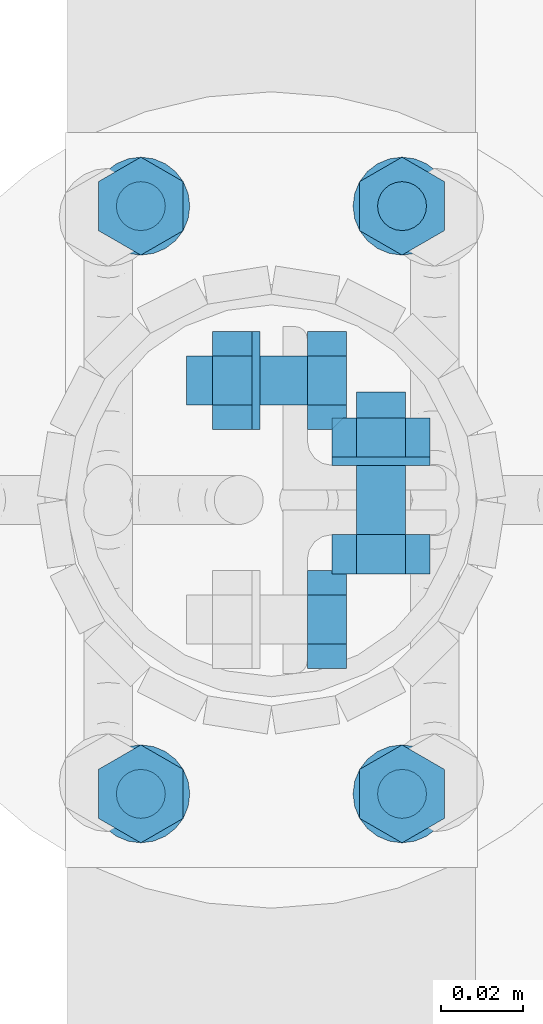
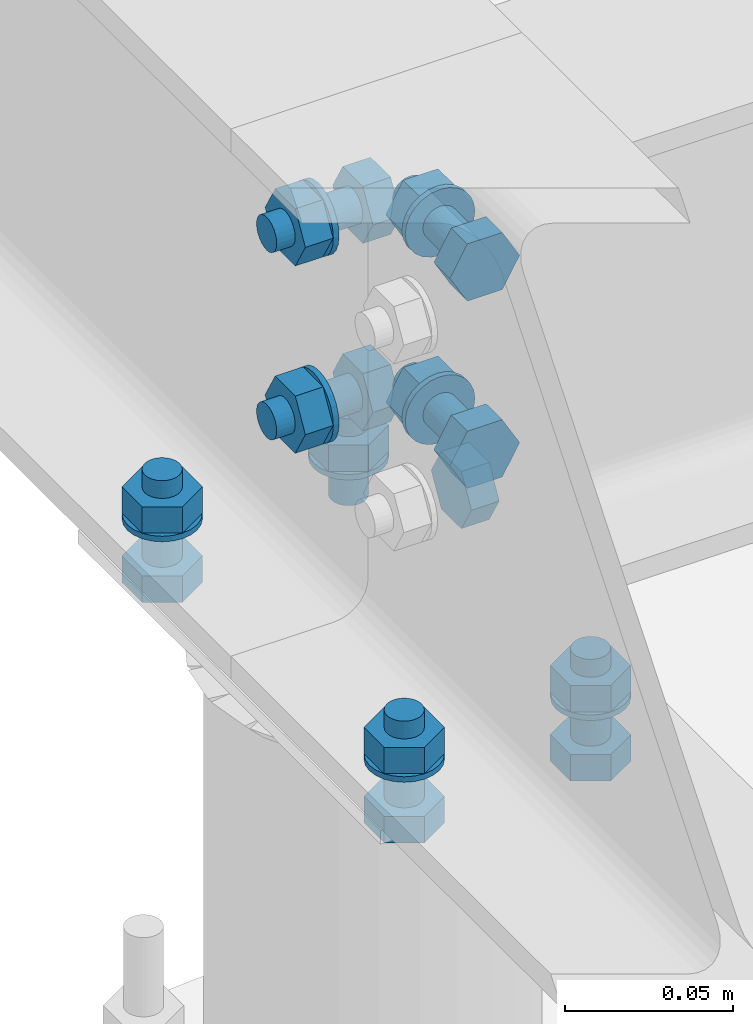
# One storey, part 18 of 84: 40 mechanical fasteners.
"""IFC4 building model written with IfcOpenShell, lengths in metres."""

from ifc_helpers import new_model, si_unit, frame, origin_with_axes, place, context, project, spatial, polyline, outline, extrude, type_object, element, save


model = new_model("IFC4")

# Units and contexts
model_context = context("Model", 3, precision=1e-05, world=origin_with_axes())
ifc_project = project(units=[si_unit("LENGTHUNIT", "METRE"), si_unit("AREAUNIT", "SQUARE_METRE"), si_unit("VOLUMEUNIT", "CUBIC_METRE"), si_unit("MASSUNIT", "GRAM", prefix="KILO"), si_unit("TIMEUNIT", "SECOND"), si_unit("PLANEANGLEUNIT", "RADIAN"), si_unit("SOLIDANGLEUNIT", "STERADIAN"), si_unit("THERMODYNAMICTEMPERATUREUNIT", "DEGREE_CELSIUS")], contexts=[model_context])

# Site, building, storey
placement_1 = place(None, origin_with_axes())
site = spatial("IfcSite", under=ifc_project, at=placement_1, Name="Italia", CompositionType="ELEMENT")
building = spatial("IfcBuilding", under=site, at=placement_1, Name="Tettoia", CompositionType="ELEMENT")
storey_placement = place(None, frame((0.0, 0.0, 4.199999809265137), z_axis=(0.0, 0.0, 1.0), x_axis=(1.0, 0.0, 0.0)))
storey = spatial("IfcBuildingStorey", under=building, at=storey_placement, Name="Storey 1", CompositionType="ELEMENT", Elevation=4.199999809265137)

# Mechanical fasteners
mechanical_fastener_type_1 = type_object("IfcMechanicalFastenerType", Name="Collegamento 0101_-001", PredefinedType="BOLT")
placement_2 = place(placement_1, origin_with_axes())
mechanical_fastener_1_placement = place(placement_2, origin_with_axes())
element("IfcMechanicalFastener", 1, at=mechanical_fastener_1_placement, inside=storey, type_object=mechanical_fastener_type_1, Name="Collegamento 0101_-001", NominalDiameter=0.012, context=model_context, shape_type="SweptSolid", body=[
    extrude(outline(polyline([(0.0, 0.0), (-0.000204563, -0.00155258), (-0.000803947, -0.00300026), (-0.00175738, -0.0042429), (-0.00300002, -0.00519657), (-0.00444722, -0.00579548), (-0.00600004, -0.00599957), (-0.00755286, -0.00579548), (-0.00900006, -0.00519657), (-0.0102427, -0.0042429), (-0.0111961, -0.00300026), (-0.0117955, -0.00155258), (-0.0120001, 0.0), (-0.0117955, 0.00155258), (-0.0111961, 0.00300026), (-0.0102427, 0.0042429), (-0.00900006, 0.00519657), (-0.00755286, 0.00579548), (-0.00600004, 0.00599957), (-0.00444722, 0.00579548), (-0.00300002, 0.00519657), (-0.00175738, 0.0042429), (-0.000803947, 0.00300026), (-0.000204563, 0.00155258), (0.0, 0.0)])), frame((8.322, 2.078, 4.2265), z_axis=(0.0, 0.0, -1.0), x_axis=(0.0, 1.0, 0.0)), (0.0, 0.0, 1.0), 0.0315003),
])
mechanical_fastener_type_2 = type_object("IfcMechanicalFastenerType", Name="Collegamento 0101_-001", PredefinedType="BOLT")
mechanical_fastener_2_placement = place(placement_2, origin_with_axes())
element("IfcMechanicalFastener", 2, at=mechanical_fastener_2_placement, inside=storey, type_object=mechanical_fastener_type_2, Name="Collegamento 0101_-001", NominalDiameter=0.0119998, context=model_context, shape_type="SweptSolid", body=[
    extrude(outline(polyline([(0.0, 0.0), (0.0119998, 0.0), (0.0179999, -0.0103931), (0.0119998, -0.0207853), (0.0, -0.0207853), (-0.00600004, -0.0103931), (0.0, 0.0)])), frame((8.33239, 2.066, 4.2201), z_axis=(0.0, 0.0, -1.0), x_axis=(0.0, 1.0, 0.0)), (0.0, 0.0, 1.0), 0.00960016),
])
mechanical_fastener_type_3 = type_object("IfcMechanicalFastenerType", Name="Collegamento 0101_-001", PredefinedType="BOLT")
mechanical_fastener_3_placement = place(placement_2, origin_with_axes())
element("IfcMechanicalFastener", 3, at=mechanical_fastener_3_placement, inside=storey, type_object=mechanical_fastener_type_3, Name="Collegamento 0101_-001", NominalDiameter=0.024, context=model_context, shape_type="SweptSolid", body=[
    extrude(outline(polyline([(0.0, 0.0), (-0.000408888, -0.00310612), (-0.00160789, -0.00599957), (-0.00351477, -0.00848484), (-0.00600004, -0.0103922), (-0.00889421, -0.011591), (-0.0120001, -0.0120001), (-0.015106, -0.011591), (-0.0180001, -0.0103922), (-0.0204854, -0.00848484), (-0.0223923, -0.00599957), (-0.0235913, -0.00310612), (-0.0240002, 0.0), (-0.0235913, 0.00310612), (-0.0223923, 0.00599957), (-0.0204854, 0.00848484), (-0.0180001, 0.0103922), (-0.015106, 0.011591), (-0.0120001, 0.0120001), (-0.00889421, 0.011591), (-0.00600004, 0.0103922), (-0.00351477, 0.00848484), (-0.00160789, 0.00599957), (-0.000408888, 0.00310612), (0.0, 0.0)])), frame((8.322, 2.084, 4.2105), z_axis=(0.0, 0.0, -1.0), x_axis=(0.0, 1.0, 0.0)), (0.0, 0.0, 1.0), 0.00199986),
])
mechanical_fastener_type_4 = type_object("IfcMechanicalFastenerType", Name="Collegamento 0101_-001", PredefinedType="BOLT")
mechanical_fastener_4_placement = place(placement_2, origin_with_axes())
element("IfcMechanicalFastener", 4, at=mechanical_fastener_4_placement, inside=storey, type_object=mechanical_fastener_type_4, Name="Collegamento 0101_-001", NominalDiameter=0.0119999, context=model_context, shape_type="SweptSolid", body=[
    extrude(outline(polyline([(0.0, 0.0), (0.012, 0.0), (0.018, -0.0103931), (0.012, -0.0207853), (0.0, -0.0207853), (-0.00600004, -0.0103931), (0.0, 0.0)])), frame((8.33239, 1.922, 4.195), z_axis=(0.0, 0.0, -1.0), x_axis=(0.0, 1.0, 0.0)), (0.0, 0.0, 1.0), 0.00959969),
])
mechanical_fastener_type_5 = type_object("IfcMechanicalFastenerType", Name="Collegamento 0101_-001", PredefinedType="BOLT")
mechanical_fastener_5_placement = place(placement_2, origin_with_axes())
element("IfcMechanicalFastener", 5, at=mechanical_fastener_5_placement, inside=storey, type_object=mechanical_fastener_type_5, Name="Collegamento 0101_-001", NominalDiameter=0.012, context=model_context, shape_type="SweptSolid", body=[
    extrude(outline(polyline([(0.0, 0.0), (-0.000204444, -0.00155258), (-0.000803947, -0.00300026), (-0.00175738, -0.0042429), (-0.00300002, -0.00519657), (-0.0044471, -0.00579548), (-0.00600004, -0.00599957), (-0.00755298, -0.00579548), (-0.00900006, -0.00519657), (-0.0102427, -0.0042429), (-0.0111961, -0.00300026), (-0.0117956, -0.00155258), (-0.0120001, 0.0), (-0.0117956, 0.00155258), (-0.0111961, 0.00300026), (-0.0102427, 0.0042429), (-0.00900006, 0.00519657), (-0.00755298, 0.00579548), (-0.00600004, 0.00599957), (-0.0044471, 0.00579548), (-0.00300002, 0.00519657), (-0.00175738, 0.0042429), (-0.000803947, 0.00300026), (-0.000204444, 0.00155258), (0.0, 0.0)])), frame((8.322, 1.934, 4.2265), z_axis=(0.0, 0.0, -1.0), x_axis=(0.0, 1.0, 0.0)), (0.0, 0.0, 1.0), 0.0315003),
])
mechanical_fastener_type_6 = type_object("IfcMechanicalFastenerType", Name="Collegamento 0101_-001", PredefinedType="BOLT")
mechanical_fastener_6_placement = place(placement_2, origin_with_axes())
element("IfcMechanicalFastener", 6, at=mechanical_fastener_6_placement, inside=storey, type_object=mechanical_fastener_type_6, Name="Collegamento 0101_-001", NominalDiameter=0.0119999, context=model_context, shape_type="SweptSolid", body=[
    extrude(outline(polyline([(0.0, 0.0), (0.012, 0.0), (0.018, -0.0103931), (0.012, -0.0207853), (0.0, -0.0207853), (-0.00600004, -0.0103931), (0.0, 0.0)])), frame((8.33239, 1.922, 4.2201), z_axis=(0.0, 0.0, -1.0), x_axis=(0.0, 1.0, 0.0)), (0.0, 0.0, 1.0), 0.00960016),
])
mechanical_fastener_type_7 = type_object("IfcMechanicalFastenerType", Name="Collegamento 0101_-001", PredefinedType="BOLT")
mechanical_fastener_7_placement = place(placement_2, origin_with_axes())
element("IfcMechanicalFastener", 7, at=mechanical_fastener_7_placement, inside=storey, type_object=mechanical_fastener_type_7, Name="Collegamento 0101_-001", NominalDiameter=0.024, context=model_context, shape_type="SweptSolid", body=[
    extrude(outline(polyline([(0.0, 0.0), (-0.000408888, -0.00310612), (-0.00160766, -0.00599957), (-0.00351465, -0.00848484), (-0.00599992, -0.0103922), (-0.00889409, -0.011591), (-0.012, -0.0120001), (-0.0151058, -0.011591), (-0.018, -0.0103922), (-0.0204853, -0.00848484), (-0.0223923, -0.00599957), (-0.023591, -0.00310612), (-0.0239999, 0.0), (-0.023591, 0.00310612), (-0.0223923, 0.00599957), (-0.0204853, 0.00848484), (-0.018, 0.0103922), (-0.0151058, 0.011591), (-0.012, 0.0120001), (-0.00889409, 0.011591), (-0.00599992, 0.0103922), (-0.00351465, 0.00848484), (-0.00160766, 0.00599957), (-0.000408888, 0.00310612), (0.0, 0.0)])), frame((8.322, 1.94, 4.2105), z_axis=(0.0, 0.0, -1.0), x_axis=(0.0, 1.0, 0.0)), (0.0, 0.0, 1.0), 0.00199986),
])
mechanical_fastener_type_8 = type_object("IfcMechanicalFastenerType", Name="Collegamento 0101_-001", PredefinedType="BOLT")
mechanical_fastener_8_placement = place(placement_2, origin_with_axes())
element("IfcMechanicalFastener", 8, at=mechanical_fastener_8_placement, inside=storey, type_object=mechanical_fastener_type_8, Name="Collegamento 0101_-001", NominalDiameter=0.0119998, context=model_context, shape_type="SweptSolid", body=[
    extrude(outline(polyline([(0.0, 0.0), (0.0119998, 0.0), (0.0179999, -0.0103922), (0.0119998, -0.0207853), (0.0, -0.0207853), (-0.00600004, -0.0103922), (0.0, 0.0)])), frame((8.26839, 2.066, 4.195), z_axis=(0.0, 0.0, -1.0), x_axis=(0.0, 1.0, 0.0)), (0.0, 0.0, 1.0), 0.00959969),
])
mechanical_fastener_type_9 = type_object("IfcMechanicalFastenerType", Name="Collegamento 0101_-001", PredefinedType="BOLT")
mechanical_fastener_9_placement = place(placement_2, origin_with_axes())
element("IfcMechanicalFastener", 9, at=mechanical_fastener_9_placement, inside=storey, type_object=mechanical_fastener_type_9, Name="Collegamento 0101_-001", NominalDiameter=0.012, context=model_context, shape_type="SweptSolid", body=[
    extrude(outline(polyline([(0.0, 0.0), (-0.000204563, -0.00155258), (-0.000803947, -0.00300026), (-0.00175738, -0.0042429), (-0.00300002, -0.00519657), (-0.00444722, -0.00579548), (-0.00600004, -0.00599957), (-0.00755286, -0.00579548), (-0.00900006, -0.00519657), (-0.0102427, -0.0042429), (-0.0111961, -0.00300026), (-0.0117955, -0.00155258), (-0.0120001, 0.0), (-0.0117955, 0.00155258), (-0.0111961, 0.00300026), (-0.0102427, 0.0042429), (-0.00900006, 0.00519657), (-0.00755286, 0.00579548), (-0.00600004, 0.00599957), (-0.00444722, 0.00579548), (-0.00300002, 0.00519657), (-0.00175738, 0.0042429), (-0.000803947, 0.00300026), (-0.000204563, 0.00155258), (0.0, 0.0)])), frame((8.258, 2.078, 4.2265), z_axis=(0.0, 0.0, -1.0), x_axis=(0.0, 1.0, 0.0)), (0.0, 0.0, 1.0), 0.0315003),
])
mechanical_fastener_type_10 = type_object("IfcMechanicalFastenerType", Name="Collegamento 0101_-001", PredefinedType="BOLT")
mechanical_fastener_10_placement = place(placement_2, origin_with_axes())
element("IfcMechanicalFastener", 10, at=mechanical_fastener_10_placement, inside=storey, type_object=mechanical_fastener_type_10, Name="Collegamento 0101_-001", NominalDiameter=0.0119998, context=model_context, shape_type="SweptSolid", body=[
    extrude(outline(polyline([(0.0, 0.0), (0.0119998, 0.0), (0.0179999, -0.0103922), (0.0119998, -0.0207853), (0.0, -0.0207853), (-0.00600004, -0.0103922), (0.0, 0.0)])), frame((8.26839, 2.066, 4.2201), z_axis=(0.0, 0.0, -1.0), x_axis=(0.0, 1.0, 0.0)), (0.0, 0.0, 1.0), 0.00960016),
])
mechanical_fastener_type_11 = type_object("IfcMechanicalFastenerType", Name="Collegamento 0101_-001", PredefinedType="BOLT")
mechanical_fastener_11_placement = place(placement_2, origin_with_axes())
element("IfcMechanicalFastener", 11, at=mechanical_fastener_11_placement, inside=storey, type_object=mechanical_fastener_type_11, Name="Collegamento 0101_-001", NominalDiameter=0.024, context=model_context, shape_type="SweptSolid", body=[
    extrude(outline(polyline([(0.0, 0.0), (-0.000408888, -0.00310612), (-0.00160789, -0.00599957), (-0.00351477, -0.00848484), (-0.00600004, -0.0103922), (-0.00889421, -0.011591), (-0.0120001, -0.0120001), (-0.015106, -0.011591), (-0.0180001, -0.0103922), (-0.0204854, -0.00848484), (-0.0223923, -0.00599957), (-0.0235913, -0.00310612), (-0.0240002, 0.0), (-0.0235913, 0.00310612), (-0.0223923, 0.00599957), (-0.0204854, 0.00848484), (-0.0180001, 0.0103922), (-0.015106, 0.011591), (-0.0120001, 0.0120001), (-0.00889421, 0.011591), (-0.00600004, 0.0103922), (-0.00351477, 0.00848484), (-0.00160789, 0.00599957), (-0.000408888, 0.00310612), (0.0, 0.0)])), frame((8.258, 2.084, 4.2105), z_axis=(0.0, 0.0, -1.0), x_axis=(0.0, 1.0, 0.0)), (0.0, 0.0, 1.0), 0.00199986),
])
mechanical_fastener_type_12 = type_object("IfcMechanicalFastenerType", Name="Collegamento 0101_-001", PredefinedType="BOLT")
mechanical_fastener_12_placement = place(placement_2, origin_with_axes())
element("IfcMechanicalFastener", 12, at=mechanical_fastener_12_placement, inside=storey, type_object=mechanical_fastener_type_12, Name="Collegamento 0101_-001", NominalDiameter=0.0119999, context=model_context, shape_type="SweptSolid", body=[
    extrude(outline(polyline([(0.0, 0.0), (0.012, 0.0), (0.018, -0.0103922), (0.012, -0.0207853), (0.0, -0.0207853), (-0.00600004, -0.0103922), (0.0, 0.0)])), frame((8.26839, 1.922, 4.195), z_axis=(0.0, 0.0, -1.0), x_axis=(0.0, 1.0, 0.0)), (0.0, 0.0, 1.0), 0.00959969),
])
mechanical_fastener_type_13 = type_object("IfcMechanicalFastenerType", Name="Collegamento 0101_-001", PredefinedType="BOLT")
mechanical_fastener_13_placement = place(placement_2, origin_with_axes())
element("IfcMechanicalFastener", 13, at=mechanical_fastener_13_placement, inside=storey, type_object=mechanical_fastener_type_13, Name="Collegamento 0101_-001", NominalDiameter=0.012, context=model_context, shape_type="SweptSolid", body=[
    extrude(outline(polyline([(0.0, 0.0), (-0.000204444, -0.00155258), (-0.000803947, -0.00300026), (-0.00175738, -0.0042429), (-0.00300002, -0.00519657), (-0.0044471, -0.00579548), (-0.00600004, -0.00599957), (-0.00755298, -0.00579548), (-0.00900006, -0.00519657), (-0.0102427, -0.0042429), (-0.0111961, -0.00300026), (-0.0117956, -0.00155258), (-0.0120001, 0.0), (-0.0117956, 0.00155258), (-0.0111961, 0.00300026), (-0.0102427, 0.0042429), (-0.00900006, 0.00519657), (-0.00755298, 0.00579548), (-0.00600004, 0.00599957), (-0.0044471, 0.00579548), (-0.00300002, 0.00519657), (-0.00175738, 0.0042429), (-0.000803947, 0.00300026), (-0.000204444, 0.00155258), (0.0, 0.0)])), frame((8.258, 1.934, 4.2265), z_axis=(0.0, 0.0, -1.0), x_axis=(0.0, 1.0, 0.0)), (0.0, 0.0, 1.0), 0.0315003),
])
mechanical_fastener_type_14 = type_object("IfcMechanicalFastenerType", Name="Collegamento 0101_-001", PredefinedType="BOLT")
mechanical_fastener_14_placement = place(placement_2, origin_with_axes())
element("IfcMechanicalFastener", 14, at=mechanical_fastener_14_placement, inside=storey, type_object=mechanical_fastener_type_14, Name="Collegamento 0101_-001", NominalDiameter=0.0119999, context=model_context, shape_type="SweptSolid", body=[
    extrude(outline(polyline([(0.0, 0.0), (0.012, 0.0), (0.018, -0.0103922), (0.012, -0.0207853), (0.0, -0.0207853), (-0.00600004, -0.0103922), (0.0, 0.0)])), frame((8.26839, 1.922, 4.2201), z_axis=(0.0, 0.0, -1.0), x_axis=(0.0, 1.0, 0.0)), (0.0, 0.0, 1.0), 0.00960016),
])
mechanical_fastener_type_15 = type_object("IfcMechanicalFastenerType", Name="Collegamento 0101_-001", PredefinedType="BOLT")
mechanical_fastener_15_placement = place(placement_2, origin_with_axes())
element("IfcMechanicalFastener", 15, at=mechanical_fastener_15_placement, inside=storey, type_object=mechanical_fastener_type_15, Name="Collegamento 0101_-001", NominalDiameter=0.024, context=model_context, shape_type="SweptSolid", body=[
    extrude(outline(polyline([(0.0, 0.0), (-0.000408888, -0.00310612), (-0.00160766, -0.00599957), (-0.00351465, -0.00848484), (-0.00599992, -0.0103922), (-0.00889409, -0.011591), (-0.012, -0.0120001), (-0.0151058, -0.011591), (-0.018, -0.0103922), (-0.0204853, -0.00848484), (-0.0223923, -0.00599957), (-0.023591, -0.00310612), (-0.0239999, 0.0), (-0.023591, 0.00310612), (-0.0223923, 0.00599957), (-0.0204853, 0.00848484), (-0.018, 0.0103922), (-0.0151058, 0.011591), (-0.012, 0.0120001), (-0.00889409, 0.011591), (-0.00599992, 0.0103922), (-0.00351465, 0.00848484), (-0.00160766, 0.00599957), (-0.000408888, 0.00310612), (0.0, 0.0)])), frame((8.258, 1.94, 4.2105), z_axis=(0.0, 0.0, -1.0), x_axis=(0.0, 1.0, 0.0)), (0.0, 0.0, 1.0), 0.00199986),
])
mechanical_fastener_type_16 = type_object("IfcMechanicalFastenerType", Name="Collegamento 0101_0102", PredefinedType="BOLT")
mechanical_fastener_16_placement = place(placement_2, origin_with_axes())
element("IfcMechanicalFastener", 16, at=mechanical_fastener_16_placement, inside=storey, type_object=mechanical_fastener_type_16, Name="Collegamento 0101_0102", NominalDiameter=0.0119997, context=model_context, shape_type="SweptSolid", body=[
    extrude(outline(polyline([(0.0, 0.0), (-0.0120001, 0.0), (-0.0179996, 0.0103922), (-0.0120001, 0.0207844), (0.0, 0.0207844), (0.00600052, 0.0103922), (0.0, 0.0)])), frame((8.3228, 1.9915, 4.25561), z_axis=(0.0, -1.0, 0.0), x_axis=(1.0, 0.0, 0.0)), (0.0, 0.0, 1.0), 0.00960004),
])
mechanical_fastener_type_17 = type_object("IfcMechanicalFastenerType", Name="Collegamento 0101_0102", PredefinedType="BOLT")
mechanical_fastener_17_placement = place(placement_2, origin_with_axes())
element("IfcMechanicalFastener", 17, at=mechanical_fastener_17_placement, inside=storey, type_object=mechanical_fastener_type_17, Name="Collegamento 0101_0102", NominalDiameter=0.012, context=model_context, shape_type="SweptSolid", body=[
    extrude(outline(polyline([(0.0, 0.0), (-0.000204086, -0.00155306), (-0.000802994, -0.00299978), (-0.00175667, -0.00424242), (-0.00299931, -0.00519609), (-0.00444698, -0.00579548), (-0.00599957, -0.00600004), (-0.00755215, -0.00579548), (-0.00899982, -0.00519609), (-0.0102425, -0.00424242), (-0.0111961, -0.00299978), (-0.011795, -0.00155306), (-0.0119991, 0.0), (-0.011795, 0.00155306), (-0.0111961, 0.00299978), (-0.0102425, 0.00424242), (-0.00899982, 0.00519609), (-0.00755215, 0.00579548), (-0.00599957, 0.00600004), (-0.00444698, 0.00579548), (-0.00299931, 0.00519609), (-0.00175667, 0.00424242), (-0.000802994, 0.00299978), (-0.000204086, 0.00155306), (0.0, 0.0)])), frame((8.3228, 2.0265, 4.266), z_axis=(0.0, -1.0, 0.0), x_axis=(1.0, 0.0, 0.0)), (0.0, 0.0, 1.0), 0.035),
])
mechanical_fastener_type_18 = type_object("IfcMechanicalFastenerType", Name="Collegamento 0101_0102", PredefinedType="BOLT")
mechanical_fastener_18_placement = place(placement_2, origin_with_axes())
element("IfcMechanicalFastener", 18, at=mechanical_fastener_18_placement, inside=storey, type_object=mechanical_fastener_type_18, Name="Collegamento 0101_0102", NominalDiameter=0.0119997, context=model_context, shape_type="SweptSolid", body=[
    extrude(outline(polyline([(0.0, 0.0), (-0.0120001, 0.0), (-0.0179996, 0.0103922), (-0.0120001, 0.0207844), (0.0, 0.0207844), (0.00600052, 0.0103922), (0.0, 0.0)])), frame((8.3228, 2.0201, 4.25561), z_axis=(0.0, -1.0, 0.0), x_axis=(1.0, 0.0, 0.0)), (0.0, 0.0, 1.0), 0.00960016),
])
mechanical_fastener_type_19 = type_object("IfcMechanicalFastenerType", Name="Collegamento 0101_0102", PredefinedType="BOLT")
mechanical_fastener_19_placement = place(placement_2, origin_with_axes())
element("IfcMechanicalFastener", 19, at=mechanical_fastener_19_placement, inside=storey, type_object=mechanical_fastener_type_19, Name="Collegamento 0101_0102", NominalDiameter=0.024, context=model_context, shape_type="SweptSolid", body=[
    extrude(outline(polyline([(0.0, 0.0), (-0.000409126, -0.00310564), (-0.00160789, -0.00600004), (-0.00351524, -0.00848532), (-0.00600052, -0.0103922), (-0.00889397, -0.011591), (-0.0120001, -0.0120001), (-0.0151062, -0.011591), (-0.0179996, -0.0103922), (-0.0204849, -0.00848532), (-0.0223923, -0.00600004), (-0.023591, -0.00310564), (-0.0240002, 0.0), (-0.023591, 0.00310564), (-0.0223923, 0.00600004), (-0.0204849, 0.00848532), (-0.0179996, 0.0103922), (-0.0151062, 0.011591), (-0.0120001, 0.0120001), (-0.00889397, 0.011591), (-0.00600052, 0.0103922), (-0.00351524, 0.00848532), (-0.00160789, 0.00600004), (-0.000409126, 0.00310564), (0.0, 0.0)])), frame((8.3288, 2.0105, 4.266), z_axis=(0.0, -1.0, 0.0), x_axis=(1.0, 0.0, 0.0)), (0.0, 0.0, 1.0), 0.00199986),
])
mechanical_fastener_type_20 = type_object("IfcMechanicalFastenerType", Name="Collegamento 0101_0102", PredefinedType="BOLT")
mechanical_fastener_20_placement = place(placement_2, origin_with_axes())
element("IfcMechanicalFastener", 20, at=mechanical_fastener_20_placement, inside=storey, type_object=mechanical_fastener_type_20, Name="Collegamento 0101_0102", NominalDiameter=0.0119997, context=model_context, shape_type="SweptSolid", body=[
    extrude(outline(polyline([(0.0, 0.0), (-0.0120001, 0.0), (-0.0179996, 0.0103922), (-0.0120001, 0.0207844), (0.0, 0.0207844), (0.00600052, 0.0103922), (0.0, 0.0)])), frame((8.3228, 1.9915, 4.32361), z_axis=(0.0, -1.0, 0.0), x_axis=(1.0, 0.0, 0.0)), (0.0, 0.0, 1.0), 0.00960004),
])
mechanical_fastener_type_21 = type_object("IfcMechanicalFastenerType", Name="Collegamento 0101_0102", PredefinedType="BOLT")
mechanical_fastener_21_placement = place(placement_2, origin_with_axes())
element("IfcMechanicalFastener", 21, at=mechanical_fastener_21_placement, inside=storey, type_object=mechanical_fastener_type_21, Name="Collegamento 0101_0102", NominalDiameter=0.012, context=model_context, shape_type="SweptSolid", body=[
    extrude(outline(polyline([(0.0, 0.0), (-0.000204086, -0.00155306), (-0.000802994, -0.00299978), (-0.00175667, -0.00424242), (-0.00299931, -0.00519609), (-0.00444698, -0.00579548), (-0.00599957, -0.00600004), (-0.00755215, -0.00579548), (-0.00899982, -0.00519609), (-0.0102425, -0.00424242), (-0.0111961, -0.00299978), (-0.011795, -0.00155306), (-0.0119991, 0.0), (-0.011795, 0.00155306), (-0.0111961, 0.00299978), (-0.0102425, 0.00424242), (-0.00899982, 0.00519609), (-0.00755215, 0.00579548), (-0.00599957, 0.00600004), (-0.00444698, 0.00579548), (-0.00299931, 0.00519609), (-0.00175667, 0.00424242), (-0.000802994, 0.00299978), (-0.000204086, 0.00155306), (0.0, 0.0)])), frame((8.3228, 2.0265, 4.334), z_axis=(0.0, -1.0, 0.0), x_axis=(1.0, 0.0, 0.0)), (0.0, 0.0, 1.0), 0.035),
])
mechanical_fastener_type_22 = type_object("IfcMechanicalFastenerType", Name="Collegamento 0101_0102", PredefinedType="BOLT")
mechanical_fastener_22_placement = place(placement_2, origin_with_axes())
element("IfcMechanicalFastener", 22, at=mechanical_fastener_22_placement, inside=storey, type_object=mechanical_fastener_type_22, Name="Collegamento 0101_0102", NominalDiameter=0.0119997, context=model_context, shape_type="SweptSolid", body=[
    extrude(outline(polyline([(0.0, 0.0), (-0.0120001, 0.0), (-0.0179996, 0.0103922), (-0.0120001, 0.0207844), (0.0, 0.0207844), (0.00600052, 0.0103922), (0.0, 0.0)])), frame((8.3228, 2.0201, 4.32361), z_axis=(0.0, -1.0, 0.0), x_axis=(1.0, 0.0, 0.0)), (0.0, 0.0, 1.0), 0.00960016),
])
mechanical_fastener_type_23 = type_object("IfcMechanicalFastenerType", Name="Collegamento 0101_0102", PredefinedType="BOLT")
mechanical_fastener_23_placement = place(placement_2, origin_with_axes())
element("IfcMechanicalFastener", 23, at=mechanical_fastener_23_placement, inside=storey, type_object=mechanical_fastener_type_23, Name="Collegamento 0101_0102", NominalDiameter=0.024, context=model_context, shape_type="SweptSolid", body=[
    extrude(outline(polyline([(0.0, 0.0), (-0.000409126, -0.00310564), (-0.00160789, -0.00600004), (-0.00351524, -0.00848532), (-0.00600052, -0.0103922), (-0.00889397, -0.011591), (-0.0120001, -0.0120001), (-0.0151062, -0.011591), (-0.0179996, -0.0103922), (-0.0204849, -0.00848532), (-0.0223923, -0.00600004), (-0.023591, -0.00310564), (-0.0240002, 0.0), (-0.023591, 0.00310564), (-0.0223923, 0.00600004), (-0.0204849, 0.00848532), (-0.0179996, 0.0103922), (-0.0151062, 0.011591), (-0.0120001, 0.0120001), (-0.00889397, 0.011591), (-0.00600052, 0.0103922), (-0.00351524, 0.00848532), (-0.00160789, 0.00600004), (-0.000409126, 0.00310564), (0.0, 0.0)])), frame((8.3288, 2.0105, 4.334), z_axis=(0.0, -1.0, 0.0), x_axis=(1.0, 0.0, 0.0)), (0.0, 0.0, 1.0), 0.00199986),
])
mechanical_fastener_type_24 = type_object("IfcMechanicalFastenerType", Name="Collegamento 0101_0102", PredefinedType="BOLT")
mechanical_fastener_24_placement = place(placement_2, origin_with_axes())
element("IfcMechanicalFastener", 24, at=mechanical_fastener_24_placement, inside=storey, type_object=mechanical_fastener_type_24, Name="Collegamento 0101_0102", NominalDiameter=0.0119997, context=model_context, shape_type="SweptSolid", body=[
    extrude(outline(polyline([(0.0, 0.0), (-0.0120001, 0.0), (-0.0179996, 0.0103922), (-0.0120001, 0.0207844), (0.0, 0.0207844), (0.00600052, 0.0103922), (0.0, 0.0)])), frame((8.3228, 1.9915, 4.25561), z_axis=(0.0, -1.0, 0.0), x_axis=(1.0, 0.0, 0.0)), (0.0, 0.0, 1.0), 0.00960004),
])
mechanical_fastener_type_25 = type_object("IfcMechanicalFastenerType", Name="Collegamento 0101_0102", PredefinedType="BOLT")
mechanical_fastener_25_placement = place(placement_2, origin_with_axes())
element("IfcMechanicalFastener", 25, at=mechanical_fastener_25_placement, inside=storey, type_object=mechanical_fastener_type_25, Name="Collegamento 0101_0102", NominalDiameter=0.012, context=model_context, shape_type="SweptSolid", body=[
    extrude(outline(polyline([(0.0, 0.0), (-0.000204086, -0.00155306), (-0.000802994, -0.00299978), (-0.00175667, -0.00424242), (-0.00299931, -0.00519609), (-0.00444698, -0.00579548), (-0.00599957, -0.00600004), (-0.00755215, -0.00579548), (-0.00899982, -0.00519609), (-0.0102425, -0.00424242), (-0.0111961, -0.00299978), (-0.011795, -0.00155306), (-0.0119991, 0.0), (-0.011795, 0.00155306), (-0.0111961, 0.00299978), (-0.0102425, 0.00424242), (-0.00899982, 0.00519609), (-0.00755215, 0.00579548), (-0.00599957, 0.00600004), (-0.00444698, 0.00579548), (-0.00299931, 0.00519609), (-0.00175667, 0.00424242), (-0.000802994, 0.00299978), (-0.000204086, 0.00155306), (0.0, 0.0)])), frame((8.3228, 2.0265, 4.266), z_axis=(0.0, -1.0, 0.0), x_axis=(1.0, 0.0, 0.0)), (0.0, 0.0, 1.0), 0.035),
])
mechanical_fastener_type_26 = type_object("IfcMechanicalFastenerType", Name="Collegamento 0101_0102", PredefinedType="BOLT")
mechanical_fastener_26_placement = place(placement_2, origin_with_axes())
element("IfcMechanicalFastener", 26, at=mechanical_fastener_26_placement, inside=storey, type_object=mechanical_fastener_type_26, Name="Collegamento 0101_0102", NominalDiameter=0.0119997, context=model_context, shape_type="SweptSolid", body=[
    extrude(outline(polyline([(0.0, 0.0), (-0.0120001, 0.0), (-0.0179996, 0.0103922), (-0.0120001, 0.0207844), (0.0, 0.0207844), (0.00600052, 0.0103922), (0.0, 0.0)])), frame((8.3228, 2.0201, 4.25561), z_axis=(0.0, -1.0, 0.0), x_axis=(1.0, 0.0, 0.0)), (0.0, 0.0, 1.0), 0.00960016),
])
mechanical_fastener_type_27 = type_object("IfcMechanicalFastenerType", Name="Collegamento 0101_0102", PredefinedType="BOLT")
mechanical_fastener_27_placement = place(placement_2, origin_with_axes())
element("IfcMechanicalFastener", 27, at=mechanical_fastener_27_placement, inside=storey, type_object=mechanical_fastener_type_27, Name="Collegamento 0101_0102", NominalDiameter=0.024, context=model_context, shape_type="SweptSolid", body=[
    extrude(outline(polyline([(0.0, 0.0), (-0.000409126, -0.00310564), (-0.00160789, -0.00600004), (-0.00351524, -0.00848532), (-0.00600052, -0.0103922), (-0.00889397, -0.011591), (-0.0120001, -0.0120001), (-0.0151062, -0.011591), (-0.0179996, -0.0103922), (-0.0204849, -0.00848532), (-0.0223923, -0.00600004), (-0.023591, -0.00310564), (-0.0240002, 0.0), (-0.023591, 0.00310564), (-0.0223923, 0.00600004), (-0.0204849, 0.00848532), (-0.0179996, 0.0103922), (-0.0151062, 0.011591), (-0.0120001, 0.0120001), (-0.00889397, 0.011591), (-0.00600052, 0.0103922), (-0.00351524, 0.00848532), (-0.00160789, 0.00600004), (-0.000409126, 0.00310564), (0.0, 0.0)])), frame((8.3288, 2.0105, 4.266), z_axis=(0.0, -1.0, 0.0), x_axis=(1.0, 0.0, 0.0)), (0.0, 0.0, 1.0), 0.00199986),
])
mechanical_fastener_type_28 = type_object("IfcMechanicalFastenerType", Name="Collegamento 0101_0102", PredefinedType="BOLT")
mechanical_fastener_28_placement = place(placement_2, origin_with_axes())
element("IfcMechanicalFastener", 28, at=mechanical_fastener_28_placement, inside=storey, type_object=mechanical_fastener_type_28, Name="Collegamento 0101_0102", NominalDiameter=0.0119997, context=model_context, shape_type="SweptSolid", body=[
    extrude(outline(polyline([(0.0, 0.0), (-0.0120001, 0.0), (-0.0179996, 0.0103922), (-0.0120001, 0.0207844), (0.0, 0.0207844), (0.00600052, 0.0103922), (0.0, 0.0)])), frame((8.3228, 1.9915, 4.32361), z_axis=(0.0, -1.0, 0.0), x_axis=(1.0, 0.0, 0.0)), (0.0, 0.0, 1.0), 0.00960004),
])
mechanical_fastener_type_29 = type_object("IfcMechanicalFastenerType", Name="Collegamento 0101_0102", PredefinedType="BOLT")
mechanical_fastener_29_placement = place(placement_2, origin_with_axes())
element("IfcMechanicalFastener", 29, at=mechanical_fastener_29_placement, inside=storey, type_object=mechanical_fastener_type_29, Name="Collegamento 0101_0102", NominalDiameter=0.012, context=model_context, shape_type="SweptSolid", body=[
    extrude(outline(polyline([(0.0, 0.0), (-0.000204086, -0.00155306), (-0.000802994, -0.00299978), (-0.00175667, -0.00424242), (-0.00299931, -0.00519609), (-0.00444698, -0.00579548), (-0.00599957, -0.00600004), (-0.00755215, -0.00579548), (-0.00899982, -0.00519609), (-0.0102425, -0.00424242), (-0.0111961, -0.00299978), (-0.011795, -0.00155306), (-0.0119991, 0.0), (-0.011795, 0.00155306), (-0.0111961, 0.00299978), (-0.0102425, 0.00424242), (-0.00899982, 0.00519609), (-0.00755215, 0.00579548), (-0.00599957, 0.00600004), (-0.00444698, 0.00579548), (-0.00299931, 0.00519609), (-0.00175667, 0.00424242), (-0.000802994, 0.00299978), (-0.000204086, 0.00155306), (0.0, 0.0)])), frame((8.3228, 2.0265, 4.334), z_axis=(0.0, -1.0, 0.0), x_axis=(1.0, 0.0, 0.0)), (0.0, 0.0, 1.0), 0.035),
])
mechanical_fastener_type_30 = type_object("IfcMechanicalFastenerType", Name="Collegamento 0101_0102", PredefinedType="BOLT")
mechanical_fastener_30_placement = place(placement_2, origin_with_axes())
element("IfcMechanicalFastener", 30, at=mechanical_fastener_30_placement, inside=storey, type_object=mechanical_fastener_type_30, Name="Collegamento 0101_0102", NominalDiameter=0.0119997, context=model_context, shape_type="SweptSolid", body=[
    extrude(outline(polyline([(0.0, 0.0), (-0.0120001, 0.0), (-0.0179996, 0.0103922), (-0.0120001, 0.0207844), (0.0, 0.0207844), (0.00600052, 0.0103922), (0.0, 0.0)])), frame((8.3228, 2.0201, 4.32361), z_axis=(0.0, -1.0, 0.0), x_axis=(1.0, 0.0, 0.0)), (0.0, 0.0, 1.0), 0.00960016),
])
mechanical_fastener_type_31 = type_object("IfcMechanicalFastenerType", Name="Collegamento 0101_0102", PredefinedType="BOLT")
mechanical_fastener_31_placement = place(placement_2, origin_with_axes())
element("IfcMechanicalFastener", 31, at=mechanical_fastener_31_placement, inside=storey, type_object=mechanical_fastener_type_31, Name="Collegamento 0101_0102", NominalDiameter=0.024, context=model_context, shape_type="SweptSolid", body=[
    extrude(outline(polyline([(0.0, 0.0), (-0.000409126, -0.00310564), (-0.00160789, -0.00600004), (-0.00351524, -0.00848532), (-0.00600052, -0.0103922), (-0.00889397, -0.011591), (-0.0120001, -0.0120001), (-0.0151062, -0.011591), (-0.0179996, -0.0103922), (-0.0204849, -0.00848532), (-0.0223923, -0.00600004), (-0.023591, -0.00310564), (-0.0240002, 0.0), (-0.023591, 0.00310564), (-0.0223923, 0.00600004), (-0.0204849, 0.00848532), (-0.0179996, 0.0103922), (-0.0151062, 0.011591), (-0.0120001, 0.0120001), (-0.00889397, 0.011591), (-0.00600052, 0.0103922), (-0.00351524, 0.00848532), (-0.00160789, 0.00600004), (-0.000409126, 0.00310564), (0.0, 0.0)])), frame((8.3288, 2.0105, 4.334), z_axis=(0.0, -1.0, 0.0), x_axis=(1.0, 0.0, 0.0)), (0.0, 0.0, 1.0), 0.00199986),
])
mechanical_fastener_type_32 = type_object("IfcMechanicalFastenerType", Name="Collegamento 0101_0102", PredefinedType="BOLT")
mechanical_fastener_32_placement = place(placement_2, origin_with_axes())
element("IfcMechanicalFastener", 32, at=mechanical_fastener_32_placement, inside=storey, type_object=mechanical_fastener_type_32, Name="Collegamento 0101_0102", NominalDiameter=0.0119999, context=model_context, shape_type="SweptSolid", body=[
    extrude(outline(polyline([(0.0, 0.0), (-0.0120001, 0.0), (-0.0180001, 0.0103922), (-0.0120001, 0.0207844), (0.0, 0.0207844), (0.00600004, 0.0103922), (0.0, 0.0)])), frame((8.2988, 2.0353, 4.25561), z_axis=(1.0, 0.0, 0.0), x_axis=(0.0, 1.0, 0.0)), (0.0, 0.0, 1.0), 0.00960064),
])
mechanical_fastener_type_33 = type_object("IfcMechanicalFastenerType", Name="Collegamento 0101_0102", PredefinedType="BOLT")
mechanical_fastener_33_placement = place(placement_2, origin_with_axes())
element("IfcMechanicalFastener", 33, at=mechanical_fastener_33_placement, inside=storey, type_object=mechanical_fastener_type_33, Name="Collegamento 0101_0102", NominalDiameter=0.012, context=model_context, shape_type="SweptSolid", body=[
    extrude(outline(polyline([(0.0, 0.0), (-0.000204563, -0.00155306), (-0.000803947, -0.00299978), (-0.00175738, -0.00424242), (-0.00300002, -0.00519609), (-0.00444722, -0.00579548), (-0.00600004, -0.00600004), (-0.00755286, -0.00579548), (-0.00900006, -0.00519609), (-0.0102427, -0.00424242), (-0.0111961, -0.00299978), (-0.0117955, -0.00155306), (-0.0120001, 0.0), (-0.0117955, 0.00155306), (-0.0111961, 0.00299978), (-0.0102427, 0.00424242), (-0.00900006, 0.00519609), (-0.00755286, 0.00579548), (-0.00600004, 0.00600004), (-0.00444722, 0.00579548), (-0.00300002, 0.00519609), (-0.00175738, 0.00424242), (-0.000803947, 0.00299978), (-0.000204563, 0.00155306), (0.0, 0.0)])), frame((8.2692, 2.0353, 4.266), z_axis=(1.0, 0.0, 0.0), x_axis=(0.0, 1.0, 0.0)), (0.0, 0.0, 1.0), 0.0295992),
])
mechanical_fastener_type_34 = type_object("IfcMechanicalFastenerType", Name="Collegamento 0101_0102", PredefinedType="BOLT")
mechanical_fastener_34_placement = place(placement_2, origin_with_axes())
element("IfcMechanicalFastener", 34, at=mechanical_fastener_34_placement, inside=storey, type_object=mechanical_fastener_type_34, Name="Collegamento 0101_0102", NominalDiameter=0.0119999, context=model_context, shape_type="SweptSolid", body=[
    extrude(outline(polyline([(0.0, 0.0), (-0.0120001, 0.0), (-0.0180001, 0.0103922), (-0.0120001, 0.0207844), (0.0, 0.0207844), (0.00600004, 0.0103922), (0.0, 0.0)])), frame((8.2756, 2.0353, 4.25561), z_axis=(1.0, 0.0, 0.0), x_axis=(0.0, 1.0, 0.0)), (0.0, 0.0, 1.0), 0.00960064),
])
mechanical_fastener_type_35 = type_object("IfcMechanicalFastenerType", Name="Collegamento 0101_0102", PredefinedType="BOLT")
mechanical_fastener_35_placement = place(placement_2, origin_with_axes())
element("IfcMechanicalFastener", 35, at=mechanical_fastener_35_placement, inside=storey, type_object=mechanical_fastener_type_35, Name="Collegamento 0101_0102", NominalDiameter=0.024, context=model_context, shape_type="SweptSolid", body=[
    extrude(outline(polyline([(0.0, 0.0), (-0.000408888, -0.00310564), (-0.00160789, -0.00600004), (-0.00351477, -0.00848532), (-0.00600004, -0.0103922), (-0.00889421, -0.011591), (-0.0120001, -0.0120001), (-0.015106, -0.011591), (-0.0180001, -0.0103922), (-0.0204854, -0.00848532), (-0.0223923, -0.00600004), (-0.0235913, -0.00310564), (-0.0240002, 0.0), (-0.0235913, 0.00310564), (-0.0223923, 0.00600004), (-0.0204854, 0.00848532), (-0.0180001, 0.0103922), (-0.015106, 0.011591), (-0.0120001, 0.0120001), (-0.00889421, 0.011591), (-0.00600004, 0.0103922), (-0.00351477, 0.00848532), (-0.00160789, 0.00600004), (-0.000408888, 0.00310564), (0.0, 0.0)])), frame((8.2852, 2.0413, 4.266), z_axis=(1.0, 0.0, 0.0), x_axis=(0.0, 1.0, 0.0)), (0.0, 0.0, 1.0), 0.00199986),
])
mechanical_fastener_type_36 = type_object("IfcMechanicalFastenerType", Name="Collegamento 0101_0102", PredefinedType="BOLT")
mechanical_fastener_36_placement = place(placement_2, origin_with_axes())
element("IfcMechanicalFastener", 36, at=mechanical_fastener_36_placement, inside=storey, type_object=mechanical_fastener_type_36, Name="Collegamento 0101_0102", NominalDiameter=0.0119999, context=model_context, shape_type="SweptSolid", body=[
    extrude(outline(polyline([(0.0, 0.0), (-0.0120001, 0.0), (-0.0180001, 0.0103922), (-0.0120001, 0.0207844), (0.0, 0.0207844), (0.00600004, 0.0103922), (0.0, 0.0)])), frame((8.2988, 2.0353, 4.32361), z_axis=(1.0, 0.0, 0.0), x_axis=(0.0, 1.0, 0.0)), (0.0, 0.0, 1.0), 0.00960064),
])
mechanical_fastener_type_37 = type_object("IfcMechanicalFastenerType", Name="Collegamento 0101_0102", PredefinedType="BOLT")
mechanical_fastener_37_placement = place(placement_2, origin_with_axes())
element("IfcMechanicalFastener", 37, at=mechanical_fastener_37_placement, inside=storey, type_object=mechanical_fastener_type_37, Name="Collegamento 0101_0102", NominalDiameter=0.012, context=model_context, shape_type="SweptSolid", body=[
    extrude(outline(polyline([(0.0, 0.0), (-0.000204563, -0.00155306), (-0.000803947, -0.00299978), (-0.00175738, -0.00424242), (-0.00300002, -0.00519609), (-0.00444722, -0.00579548), (-0.00600004, -0.00600004), (-0.00755286, -0.00579548), (-0.00900006, -0.00519609), (-0.0102427, -0.00424242), (-0.0111961, -0.00299978), (-0.0117955, -0.00155306), (-0.0120001, 0.0), (-0.0117955, 0.00155306), (-0.0111961, 0.00299978), (-0.0102427, 0.00424242), (-0.00900006, 0.00519609), (-0.00755286, 0.00579548), (-0.00600004, 0.00600004), (-0.00444722, 0.00579548), (-0.00300002, 0.00519609), (-0.00175738, 0.00424242), (-0.000803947, 0.00299978), (-0.000204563, 0.00155306), (0.0, 0.0)])), frame((8.2692, 2.0353, 4.334), z_axis=(1.0, 0.0, 0.0), x_axis=(0.0, 1.0, 0.0)), (0.0, 0.0, 1.0), 0.0295992),
])
mechanical_fastener_type_38 = type_object("IfcMechanicalFastenerType", Name="Collegamento 0101_0102", PredefinedType="BOLT")
mechanical_fastener_38_placement = place(placement_2, origin_with_axes())
element("IfcMechanicalFastener", 38, at=mechanical_fastener_38_placement, inside=storey, type_object=mechanical_fastener_type_38, Name="Collegamento 0101_0102", NominalDiameter=0.0119999, context=model_context, shape_type="SweptSolid", body=[
    extrude(outline(polyline([(0.0, 0.0), (-0.0120001, 0.0), (-0.0180001, 0.0103922), (-0.0120001, 0.0207844), (0.0, 0.0207844), (0.00600004, 0.0103922), (0.0, 0.0)])), frame((8.2756, 2.0353, 4.32361), z_axis=(1.0, 0.0, 0.0), x_axis=(0.0, 1.0, 0.0)), (0.0, 0.0, 1.0), 0.00960064),
])
mechanical_fastener_type_39 = type_object("IfcMechanicalFastenerType", Name="Collegamento 0101_0102", PredefinedType="BOLT")
mechanical_fastener_39_placement = place(placement_2, origin_with_axes())
element("IfcMechanicalFastener", 39, at=mechanical_fastener_39_placement, inside=storey, type_object=mechanical_fastener_type_39, Name="Collegamento 0101_0102", NominalDiameter=0.024, context=model_context, shape_type="SweptSolid", body=[
    extrude(outline(polyline([(0.0, 0.0), (-0.000408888, -0.00310564), (-0.00160789, -0.00600004), (-0.00351477, -0.00848532), (-0.00600004, -0.0103922), (-0.00889421, -0.011591), (-0.0120001, -0.0120001), (-0.015106, -0.011591), (-0.0180001, -0.0103922), (-0.0204854, -0.00848532), (-0.0223923, -0.00600004), (-0.0235913, -0.00310564), (-0.0240002, 0.0), (-0.0235913, 0.00310564), (-0.0223923, 0.00600004), (-0.0204854, 0.00848532), (-0.0180001, 0.0103922), (-0.015106, 0.011591), (-0.0120001, 0.0120001), (-0.00889421, 0.011591), (-0.00600004, 0.0103922), (-0.00351477, 0.00848532), (-0.00160789, 0.00600004), (-0.000408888, 0.00310564), (0.0, 0.0)])), frame((8.2852, 2.0413, 4.334), z_axis=(1.0, 0.0, 0.0), x_axis=(0.0, 1.0, 0.0)), (0.0, 0.0, 1.0), 0.00199986),
])
mechanical_fastener_type_40 = type_object("IfcMechanicalFastenerType", Name="Collegamento 0101_0102", PredefinedType="BOLT")
mechanical_fastener_40_placement = place(placement_2, origin_with_axes())
element("IfcMechanicalFastener", 40, at=mechanical_fastener_40_placement, inside=storey, type_object=mechanical_fastener_type_40, Name="Collegamento 0101_0102", NominalDiameter=0.0119999, context=model_context, shape_type="SweptSolid", body=[
    extrude(outline(polyline([(0.0, 0.0), (-0.012, 0.0), (-0.018, 0.0103922), (-0.012, 0.0207844), (0.0, 0.0207844), (0.00600004, 0.0103922), (0.0, 0.0)])), frame((8.3084, 1.9647, 4.25561), z_axis=(-1.0, 0.0, 0.0), x_axis=(0.0, -1.0, 0.0)), (0.0, 0.0, 1.0), 0.00960064),
])

save(model, "model.ifc")
